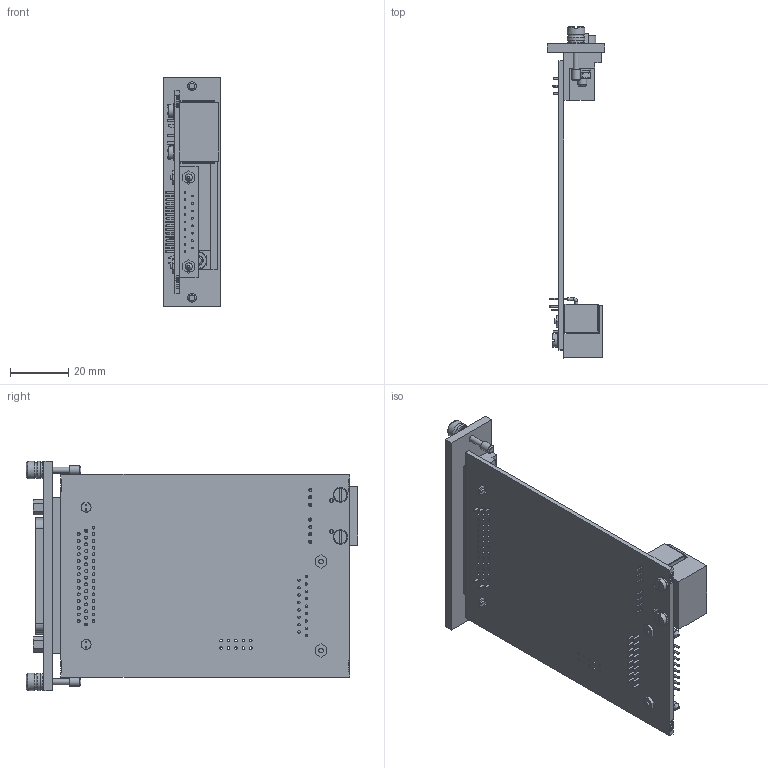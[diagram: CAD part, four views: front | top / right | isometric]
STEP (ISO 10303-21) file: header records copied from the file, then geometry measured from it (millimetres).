
FILE_DESCRIPTION(('STEP AP203'), '1');
FILE_NAME('ÊÌÍÒ.468153.011 Ìîäóëü ÒÍ3_Ê106_301', '', ('UNSPECIFIED'), ('UNSPECIFIED'), 'C3D Converter', 'C3D Toolkit', '');
FILE_SCHEMA(('CONFIG_CONTROL_DESIGN'));
Length unit declared in the file: millimetre
Products named in the file (1): КМНТ.468153.011
Bounding box: 19.6 x 113.69 x 78.5 mm (x, y, z)
Volume: 30268.1 mm3; surface area: 27197.8 mm2
Topology: 1 solids, 1 shells, 1386 faces, 3869 edges, 2535 vertices
Faces by surface type: cylinder 706, plane 585, cone 40, sphere 36, torus 19
Full cylindrical faces by diameter (mm): 0.6 x43, 0.7 x12, 0.8 x17, 0.9 x10, 1 x61, 1.1 x7, 1.4 x2, 1.6 x2, 2 x2, 2.362 x2, 2.459 x2, 2.49 x2, 3 x2, 3.175 x4, 3.2 x4, 3.4 x2, 4.5 x2, 5 x2, 6 x8
Entity records: 57476 total; most frequent: CARTESIAN_POINT 10273, DIRECTION 7813, ORIENTED_EDGE 7164, EDGE_CURVE 3582, AXIS2_PLACEMENT_3D 2949, VERTEX_POINT 2520, LINE 1915, VECTOR 1915
